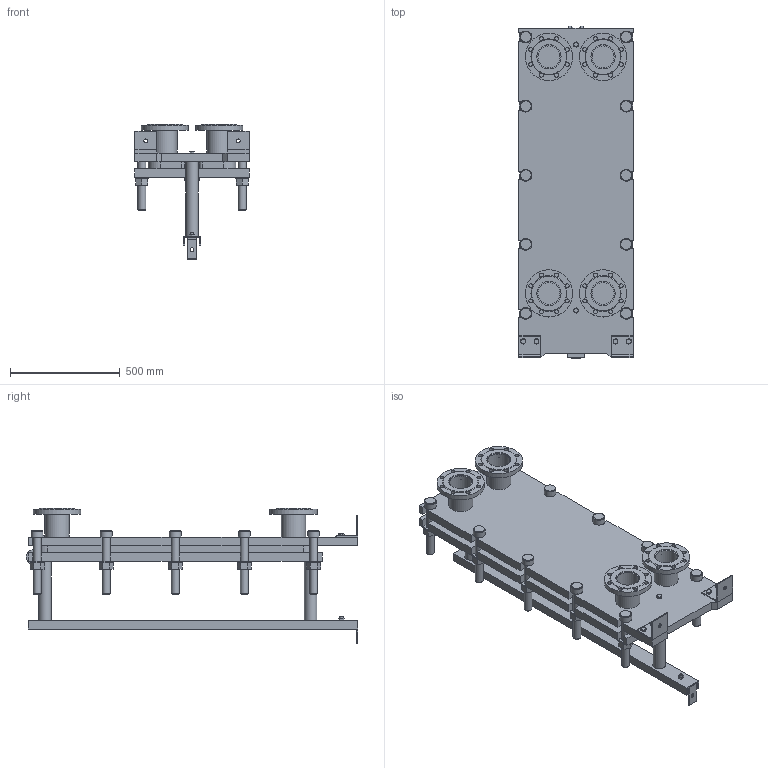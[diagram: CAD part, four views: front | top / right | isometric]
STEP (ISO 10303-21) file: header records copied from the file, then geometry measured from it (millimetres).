
FILE_DESCRIPTION(/* description */ (''),/* implementation_level */ '2;1');
FILE_NAME(/* name */ 'C:\Users\zhuro\Desktop\ENCO\TO\ЭН-04\ЭН-0,5-04-9-1.stp',/* time_stamp */ '2022-06-06T10:45:10+03:00',/* author */ ('zhuro'),/* organization */ (''),/* preprocessor_version */ 'ST-DEVELOPER v18.1',/* originating_system */ 'Autodesk Inventor 2022',/* authorisation */ '');
FILE_SCHEMA (('AUTOMOTIVE_DESIGN { 1 0 10303 214 3 1 1 }'));
Length unit declared in the file: millimetre
Products named in the file (1): ЭН-0,5-04-9-1
Bounding box: 520 x 1510 x 614.5 mm (x, y, z)
Volume: 81824599.7 mm3; surface area: 6354163.3 mm2
Topology: 45 solids, 45 shells, 668 faces, 1611 edges, 1048 vertices
Faces by surface type: plane 457, cylinder 166, cone 39, torus 6
Full cylindrical faces by diameter (mm): 8 x4, 10 x2, 16 x8, 18 x35, 36 x25, 40 x2, 42 x1, 45 x4, 54 x10, 57 x2, 60 x10, 68 x2, 100 x4, 110 x8, 215 x4
Entity records: 23607 total; most frequent: CARTESIAN_POINT 7348, DIRECTION 3371, ORIENTED_EDGE 3142, EDGE_CURVE 1571, AXIS2_PLACEMENT_3D 1199, VERTEX_POINT 1044, LINE 973, VECTOR 973
